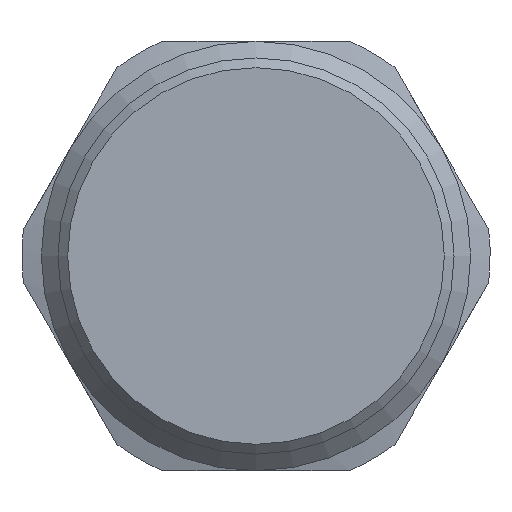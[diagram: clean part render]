
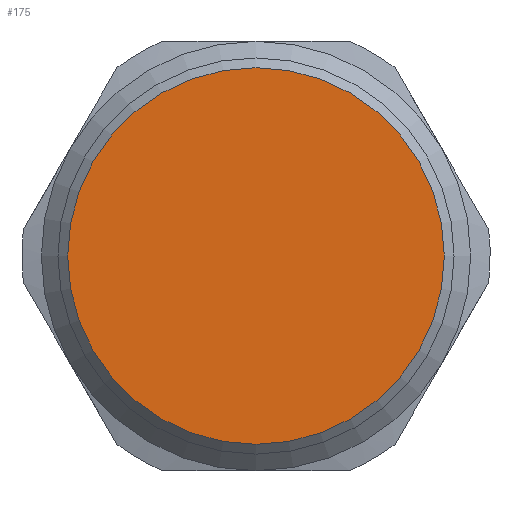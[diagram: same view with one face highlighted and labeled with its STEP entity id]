
A CAD part, front view. The second image highlights one B-rep face of the part: STEP entity #175.
In plain terms, the highlighted planar face has unit normal (0, -1, 0).
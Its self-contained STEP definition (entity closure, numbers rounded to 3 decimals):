
#82=PLANE('',#705);
#175=ADVANCED_FACE('',(#221),#82,.F.);
#221=FACE_OUTER_BOUND('',#265,.T.);
#265=EDGE_LOOP('',(#401));
#314=CIRCLE('',#704,9.65);
#401=ORIENTED_EDGE('',*,*,#581,.T.);
#517=VERTEX_POINT('',#1034);
#581=EDGE_CURVE('',#517,#517,#314,.T.);
#704=AXIS2_PLACEMENT_3D('',#1033,#843,#844);
#705=AXIS2_PLACEMENT_3D('',#1035,#845,#846);
#843=DIRECTION('',(0.,-1.,0.));
#844=DIRECTION('',(0.,0.,1.));
#845=DIRECTION('',(0.,1.,0.));
#846=DIRECTION('',(0.,0.,1.));
#1033=CARTESIAN_POINT('',(0.,-36.5,0.));
#1034=CARTESIAN_POINT('',(0.,-36.5,9.65));
#1035=CARTESIAN_POINT('',(0.,-36.5,0.));
